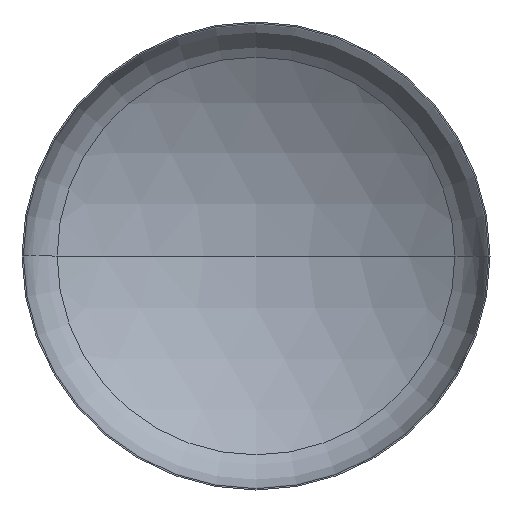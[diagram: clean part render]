
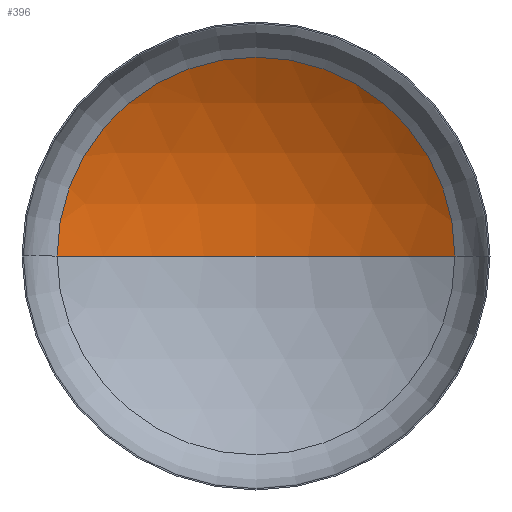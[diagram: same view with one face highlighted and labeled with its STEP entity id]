
A CAD part, front view. The second image highlights one B-rep face of the part: STEP entity #396.
In plain terms, the highlighted spherical face has radius 5200 mm.
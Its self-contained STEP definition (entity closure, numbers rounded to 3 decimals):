
#4 = ORIENTED_EDGE ( 'NONE', *, *, #123, .T. ) ;
#7 = DIRECTION ( 'NONE',  ( -1., 0., 0. ) ) ;
#48 = EDGE_LOOP ( 'NONE', ( #164, #4, #142 ) ) ;
#54 = AXIS2_PLACEMENT_3D ( 'NONE', #339, #199, #361 ) ;
#57 = DIRECTION ( 'NONE',  ( -1., 0., 0. ) ) ;
#62 = AXIS2_PLACEMENT_3D ( 'NONE', #66, #75, #7 ) ;
#64 = AXIS2_PLACEMENT_3D ( 'NONE', #240, #239, #102 ) ;
#66 = CARTESIAN_POINT ( 'NONE',  ( 0., -3498.46, 0. ) ) ;
#75 = DIRECTION ( 'NONE',  ( 0., 0., -1. ) ) ;
#86 = VERTEX_POINT ( 'NONE', #189 ) ;
#90 = CARTESIAN_POINT ( 'NONE',  ( 0., 1701.54, 0. ) ) ;
#102 = DIRECTION ( 'NONE',  ( 1., 0., 0. ) ) ;
#112 = FACE_OUTER_BOUND ( 'NONE', #48, .T. ) ;
#119 = EDGE_CURVE ( 'NONE', #120, #86, #275, .T. ) ;
#120 = VERTEX_POINT ( 'NONE', #291 ) ;
#123 = EDGE_CURVE ( 'NONE', #137, #120, #382, .T. ) ;
#125 = EDGE_CURVE ( 'NONE', #137, #86, #324, .T. ) ;
#137 = VERTEX_POINT ( 'NONE', #90 ) ;
#142 = ORIENTED_EDGE ( 'NONE', *, *, #119, .T. ) ;
#164 = ORIENTED_EDGE ( 'NONE', *, *, #125, .F. ) ;
#189 = CARTESIAN_POINT ( 'NONE',  ( -2762.19, 907.252, 0. ) ) ;
#199 = DIRECTION ( 'NONE',  ( 0., 0., 1. ) ) ;
#211 = AXIS2_PLACEMENT_3D ( 'NONE', #367, #345, #57 ) ;
#239 = DIRECTION ( 'NONE',  ( 0., -1., 0. ) ) ;
#240 = CARTESIAN_POINT ( 'NONE',  ( 0., 907.252, 0. ) ) ;
#275 = CIRCLE ( 'NONE', #64, 2762.19 ) ;
#291 = CARTESIAN_POINT ( 'NONE',  ( 2762.19, 907.252, 0. ) ) ;
#324 = CIRCLE ( 'NONE', #54, 5200. ) ;
#326 = SPHERICAL_SURFACE ( 'NONE', #211, 5200. ) ;
#339 = CARTESIAN_POINT ( 'NONE',  ( 0., -3498.46, 0. ) ) ;
#345 = DIRECTION ( 'NONE',  ( 0., 0., -1. ) ) ;
#361 = DIRECTION ( 'NONE',  ( 1., 0., 0. ) ) ;
#367 = CARTESIAN_POINT ( 'NONE',  ( 0., -3498.46, 0. ) ) ;
#382 = CIRCLE ( 'NONE', #62, 5200. ) ;
#396 = ADVANCED_FACE ( 'NONE', ( #112 ), #326, .F. ) ;
